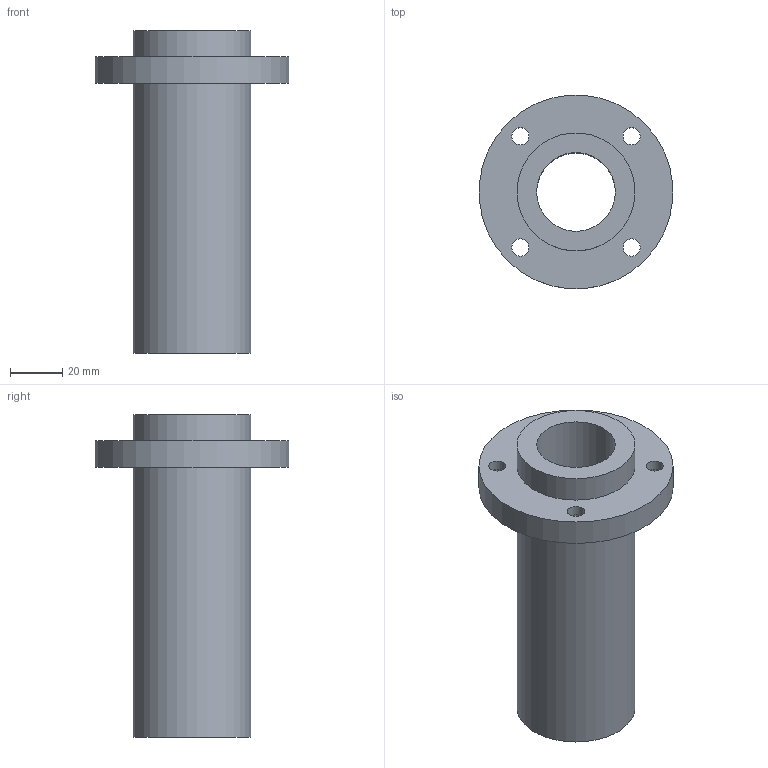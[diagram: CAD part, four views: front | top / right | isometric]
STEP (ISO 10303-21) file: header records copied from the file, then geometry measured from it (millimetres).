
FILE_DESCRIPTION(/* description */ (''),/* implementation_level */ '2;1');
FILE_NAME(/* name */ 'LMFP30LUU',/* time_stamp */ '2019-07-03T13:00:59+02:00',/* author */ ('VĂ©gh MĂˇtĂ©'),/* organization */ ('Bearing Kft'),/* preprocessor_version */ 'ST-DEVELOPER v16.7',/* originating_system */ 'DEX',/* authorisation */ $);
FILE_SCHEMA (('AUTOMOTIVE_DESIGN {1 0 10303 214 3 1 1}'));
Length unit declared in the file: millimetre
Products named in the file (1): LMFP30LUU
Bounding box: 73.72 x 73.72 x 123 mm (x, y, z)
Volume: 132924.1 mm3; surface area: 38005.3 mm2
Topology: 1 solids, 1 shells, 333 faces, 832 edges, 556 vertices
Faces by surface type: plane 256, bspline 63, cylinder 14
Full cylindrical faces by diameter (mm): 6.6 x4, 11 x4, 30 x1, 45 x2, 74 x1
Entity records: 13035 total; most frequent: CARTESIAN_POINT 5490, ORIENTED_EDGE 1626, DIRECTION 1257, EDGE_CURVE 813, LINE 659, VECTOR 659, VERTEX_POINT 552, EDGE_LOOP 413
